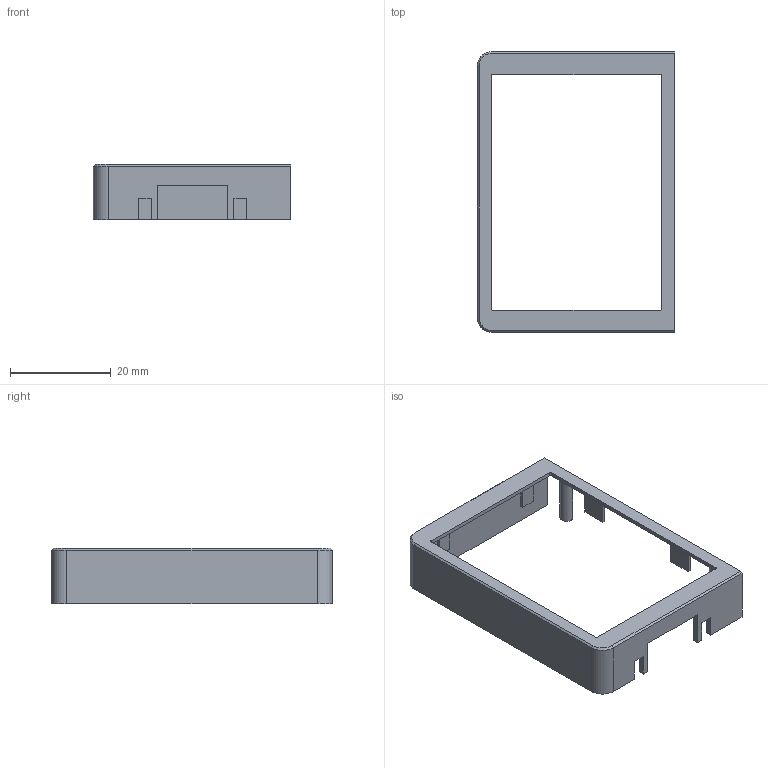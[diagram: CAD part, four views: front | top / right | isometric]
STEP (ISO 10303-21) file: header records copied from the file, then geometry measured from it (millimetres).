
FILE_DESCRIPTION(('Open CASCADE Model'),'2;1');
FILE_NAME('Open CASCADE Shape Model','2026-11-21T21:44:34',('Author'),( 'Open CASCADE'),'Open CASCADE STEP processor 7.9','Open CASCADE 7.9' ,'Unknown');
FILE_SCHEMA(('AUTOMOTIVE_DESIGN { 1 0 10303 214 1 1 1 1 }'));
Length unit declared in the file: millimetre
Products named in the file (1): Open CASCADE STEP translator 7.9 6
Bounding box: 39.2 x 55.8 x 11 mm (x, y, z)
Volume: 2064.8 mm3; surface area: 4471.1 mm2
Topology: 1 solids, 1 shells, 87 faces, 227 edges, 150 vertices
Faces by surface type: plane 73, cylinder 12, cone 2
Entity records: 5654 total; most frequent: CARTESIAN_POINT 1027, DIRECTION 865, LINE 631, VECTOR 631, ORIENTED_EDGE 454, PCURVE 454, DEFINITIONAL_REPRESENTATION 454, EDGE_CURVE 227
